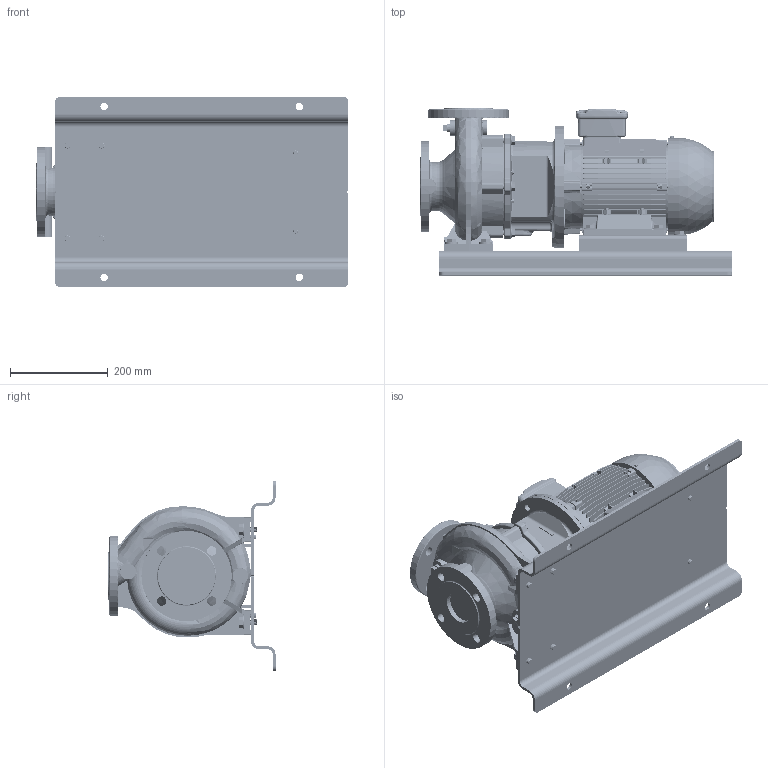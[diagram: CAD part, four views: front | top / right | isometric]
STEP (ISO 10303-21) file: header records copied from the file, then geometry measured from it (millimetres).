
FILE_DESCRIPTION (( 'STEP AP214' ), '1' );
FILE_NAME ('GSD2 50-125_3.0_(100L)_W21_BP.STEP', '2024-04-25T23:15:25', ( '' ), ( '' ), 'SwSTEP 2.0', 'SolidWorks 2019', '' );
FILE_SCHEMA (( 'AUTOMOTIVE_DESIGN' ));
Length unit declared in the file: millimetre
Products named in the file (10): Parametric bolt_SFT-A253B; 100L ALIE3_W21T_B35; Parametric Flat Washer_M10; Parametric Flat Washer_M12; Parametric bolt_SFT-A259B; N3S3 GSDA-331 F1-1832903-00; Parametric bolt_SFT-A299B; GSD2  50-125_3.0_(100L)_W21_BP; 50-125-100L; 140 x 32 - 271472023
Assembly tree (25 placements, depth 2):
  GSD2  50-125_3.0_(100L)_W21_BP
    50-125-100L
    100L ALIE3_W21T_B35
    N3S3 GSDA-331 F1-1832903-00
    140 x 32 - 271472023  x2
    Parametric bolt_SFT-A299B  x4
    Parametric bolt_SFT-A253B  x4
    Parametric bolt_SFT-A259B  x2
    Parametric Flat Washer_M10  x6
    Parametric Flat Washer_M12  x4
Bounding box: 640 x 342 x 390 mm (x, y, z)
Volume: 17368731.7 mm3; surface area: 1884924.2 mm2
Topology: 35 solids, 35 shells, 4226 faces, 11145 edges, 7226 vertices
Faces by surface type: plane 2332, cylinder 1125, torus 310, bspline 252, cone 189, sphere 18
Entity records: 188632 total; most frequent: CARTESIAN_POINT 85480, ORIENTED_EDGE 20058, DIRECTION 17820, EDGE_CURVE 10029, VERTEX_POINT 6516, VECTOR 6252, LINE 6252, AXIS2_PLACEMENT_3D 5784
